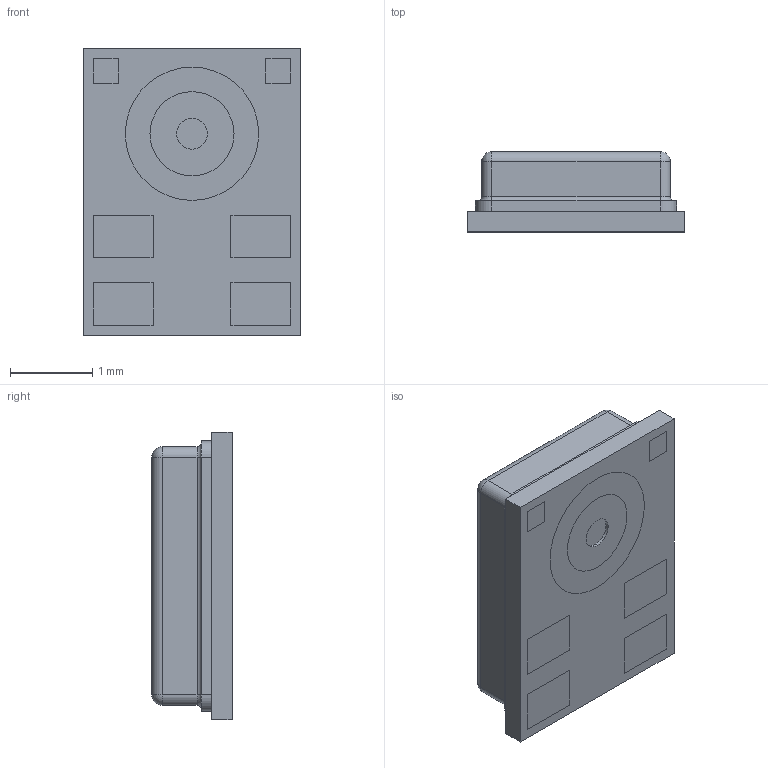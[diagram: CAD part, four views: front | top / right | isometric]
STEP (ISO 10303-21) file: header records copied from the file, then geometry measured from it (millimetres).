
FILE_DESCRIPTION (( 'STEP AP214' ), '1' );
FILE_NAME ('MMICT5837-00-012.STEP', '2025-02-07T11:35:27', ( '' ), ( '' ), 'SwSTEP 2.0', 'SolidWorks 2021', '' );
FILE_SCHEMA (( 'AUTOMOTIVE_DESIGN' ));
Length unit declared in the file: millimetre
Products named in the file (1): MMICT5837-00-012
Bounding box: 2.65 x 0.98 x 3.5 mm (x, y, z)
Volume: 7.7 mm3; surface area: 55.3 mm2
Topology: 11 solids, 11 shells, 133 faces, 284 edges, 180 vertices
Faces by surface type: plane 93, cylinder 32, sphere 4, torus 4
Entity records: 3650 total; most frequent: DIRECTION 616, CARTESIAN_POINT 594, ORIENTED_EDGE 560, EDGE_CURVE 280, VECTOR 212, LINE 212, AXIS2_PLACEMENT_3D 202, VERTEX_POINT 180
